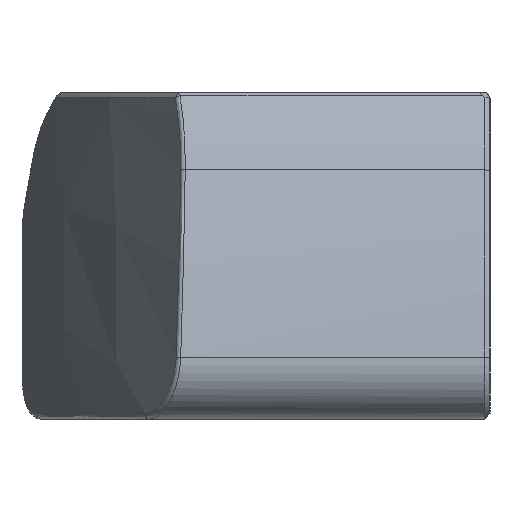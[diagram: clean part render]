
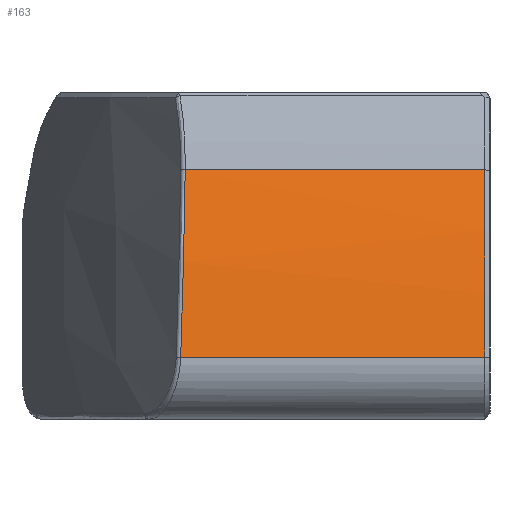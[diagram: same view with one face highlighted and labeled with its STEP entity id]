
A CAD part, left-side view. The second image highlights one B-rep face of the part: STEP entity #163.
In plain terms, the highlighted cylindrical face has radius 78 mm (diameter 156 mm), a partial arc.
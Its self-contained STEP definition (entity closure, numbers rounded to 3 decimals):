
#44 = CIRCLE ( 'NONE', #943, 78. ) ;
#163 = ADVANCED_FACE ( 'NONE', ( #622 ), #624, .T. ) ;
#212 = EDGE_CURVE ( 'NONE', #1005, #1013, #44, .T. ) ;
#215 = EDGE_CURVE ( 'NONE', #1018, #1005, #1249, .T. ) ;
#244 = EDGE_CURVE ( 'NONE', #1013, #1003, #1355, .T. ) ;
#367 = EDGE_CURVE ( 'NONE', #1003, #1018, #1808, .T. ) ;
#622 = FACE_OUTER_BOUND ( 'NONE', #1123, .T. ) ;
#624 = CYLINDRICAL_SURFACE ( 'NONE', #626, 78. ) ;
#626 = AXIS2_PLACEMENT_3D ( 'NONE', #4722, #4723, #4724 ) ;
#943 = AXIS2_PLACEMENT_3D ( 'NONE', #1236, #1240, #1241 ) ;
#1003 = VERTEX_POINT ( 'NONE', #5586 ) ;
#1005 = VERTEX_POINT ( 'NONE', #5588 ) ;
#1013 = VERTEX_POINT ( 'NONE', #5596 ) ;
#1018 = VERTEX_POINT ( 'NONE', #5601 ) ;
#1123 = EDGE_LOOP ( 'NONE', ( #3316, #3288, #3289, #3287 ) ) ;
#1236 = CARTESIAN_POINT ( 'NONE',  ( 0., -4.6, 0. ) ) ;
#1240 = DIRECTION ( 'NONE',  ( 0., 1., 0. ) ) ;
#1241 = DIRECTION ( 'NONE',  ( 0., 0., 1. ) ) ;
#1249 = LINE ( 'NONE', #1250, #3762 ) ;
#1250 = CARTESIAN_POINT ( 'NONE',  ( -76.591, -5., 14.757 ) ) ;
#1251 = DIRECTION ( 'NONE',  ( 0., -1., 0. ) ) ;
#1355 = LINE ( 'NONE', #1356, #2643 ) ;
#1356 = CARTESIAN_POINT ( 'NONE',  ( -72.355, -5., 29.133 ) ) ;
#1357 = DIRECTION ( 'NONE',  ( 0., 1., 0. ) ) ;
#1808 = B_SPLINE_CURVE_WITH_KNOTS ( 'NONE', 3,
 ( #4879, #4880, #4881, #4882 ),
 .UNSPECIFIED., .F., .F.,
 ( 4, 4 ),
 ( 0., 0.015 ),
 .UNSPECIFIED. ) ;
#2643 = VECTOR ( 'NONE', #1357, 1000. ) ;
#3287 = ORIENTED_EDGE ( 'NONE', *, *, #212, .T. ) ;
#3288 = ORIENTED_EDGE ( 'NONE', *, *, #367, .T. ) ;
#3289 = ORIENTED_EDGE ( 'NONE', *, *, #215, .T. ) ;
#3316 = ORIENTED_EDGE ( 'NONE', *, *, #244, .T. ) ;
#3762 = VECTOR ( 'NONE', #1251, 1000. ) ;
#4722 = CARTESIAN_POINT ( 'NONE',  ( 0., -5., 0. ) ) ;
#4723 = DIRECTION ( 'NONE',  ( 0., 1., 0. ) ) ;
#4724 = DIRECTION ( 'NONE',  ( 0., 0., 1. ) ) ;
#4879 = CARTESIAN_POINT ( 'NONE',  ( -72.355, 18.349, 29.133 ) ) ;
#4880 = CARTESIAN_POINT ( 'NONE',  ( -74.23, 18.41, 24.476 ) ) ;
#4881 = CARTESIAN_POINT ( 'NONE',  ( -75.642, 18.526, 19.684 ) ) ;
#4882 = CARTESIAN_POINT ( 'NONE',  ( -76.591, 18.697, 14.757 ) ) ;
#5586 = CARTESIAN_POINT ( 'NONE',  ( -72.355, 18.349, 29.133 ) ) ;
#5588 = CARTESIAN_POINT ( 'NONE',  ( -76.591, -4.6, 14.757 ) ) ;
#5596 = CARTESIAN_POINT ( 'NONE',  ( -72.355, -4.6, 29.133 ) ) ;
#5601 = CARTESIAN_POINT ( 'NONE',  ( -76.591, 18.697, 14.757 ) ) ;
